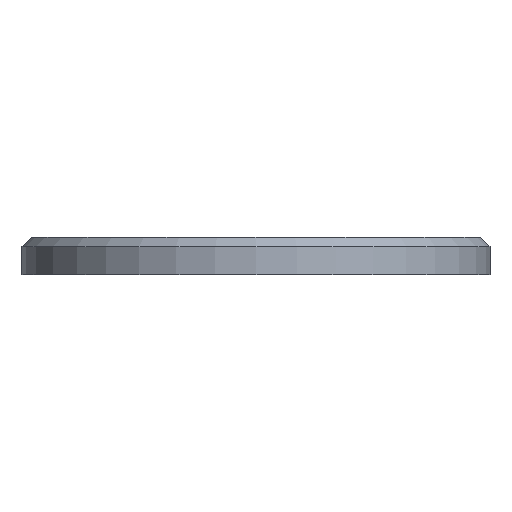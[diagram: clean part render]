
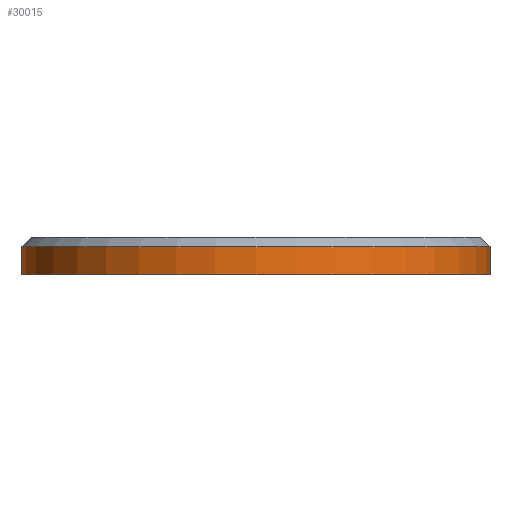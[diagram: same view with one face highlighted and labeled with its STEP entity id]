
A CAD part, left-side view. The second image highlights one B-rep face of the part: STEP entity #30015.
In plain terms, the highlighted cylindrical face has radius 20 mm (diameter 40 mm), a full revolution.
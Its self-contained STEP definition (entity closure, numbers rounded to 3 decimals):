
#1361=CYLINDRICAL_SURFACE('',#31530,20.);
#3526=FACE_OUTER_BOUND('',#4986,.T.);
#4986=EDGE_LOOP('',(#25754,#25755,#25756,#25757,#25758));
#8377=LINE('',#44895,#12471);
#12471=VECTOR('',#36515,20.);
#13943=CIRCLE('',#31527,20.);
#13944=CIRCLE('',#31528,20.);
#13945=CIRCLE('',#31531,20.);
#15995=VERTEX_POINT('',#44886);
#15996=VERTEX_POINT('',#44888);
#15997=VERTEX_POINT('',#44893);
#19471=EDGE_CURVE('',#15995,#15996,#13943,.T.);
#19472=EDGE_CURVE('',#15996,#15995,#13944,.T.);
#19473=EDGE_CURVE('',#15997,#15997,#13945,.T.);
#19474=EDGE_CURVE('',#15997,#15996,#8377,.T.);
#25754=ORIENTED_EDGE('',*,*,#19473,.F.);
#25755=ORIENTED_EDGE('',*,*,#19474,.T.);
#25756=ORIENTED_EDGE('',*,*,#19471,.F.);
#25757=ORIENTED_EDGE('',*,*,#19472,.F.);
#25758=ORIENTED_EDGE('',*,*,#19474,.F.);
#30015=ADVANCED_FACE('',(#3526),#1361,.T.);
#31527=AXIS2_PLACEMENT_3D('',#44889,#36505,#36506);
#31528=AXIS2_PLACEMENT_3D('',#44890,#36507,#36508);
#31530=AXIS2_PLACEMENT_3D('',#44892,#36511,#36512);
#31531=AXIS2_PLACEMENT_3D('',#44894,#36513,#36514);
#36505=DIRECTION('center_axis',(0.,0.,1.));
#36506=DIRECTION('ref_axis',(-1.,0.,0.));
#36507=DIRECTION('center_axis',(0.,0.,1.));
#36508=DIRECTION('ref_axis',(-1.,0.,0.));
#36511=DIRECTION('center_axis',(0.,0.,-1.));
#36512=DIRECTION('ref_axis',(1.,0.,0.));
#36513=DIRECTION('center_axis',(0.,0.,-1.));
#36514=DIRECTION('ref_axis',(1.,0.,0.));
#36515=DIRECTION('',(0.,0.,1.));
#44886=CARTESIAN_POINT('',(95.725,131.856,0.1));
#44888=CARTESIAN_POINT('',(55.725,131.856,0.1));
#44889=CARTESIAN_POINT('Origin',(75.725,131.856,0.1));
#44890=CARTESIAN_POINT('Origin',(75.725,131.856,0.1));
#44892=CARTESIAN_POINT('Origin',(75.725,131.856,0.1));
#44893=CARTESIAN_POINT('',(55.725,131.856,-2.3));
#44894=CARTESIAN_POINT('Origin',(75.725,131.856,-2.3));
#44895=CARTESIAN_POINT('',(55.725,131.856,0.1));
